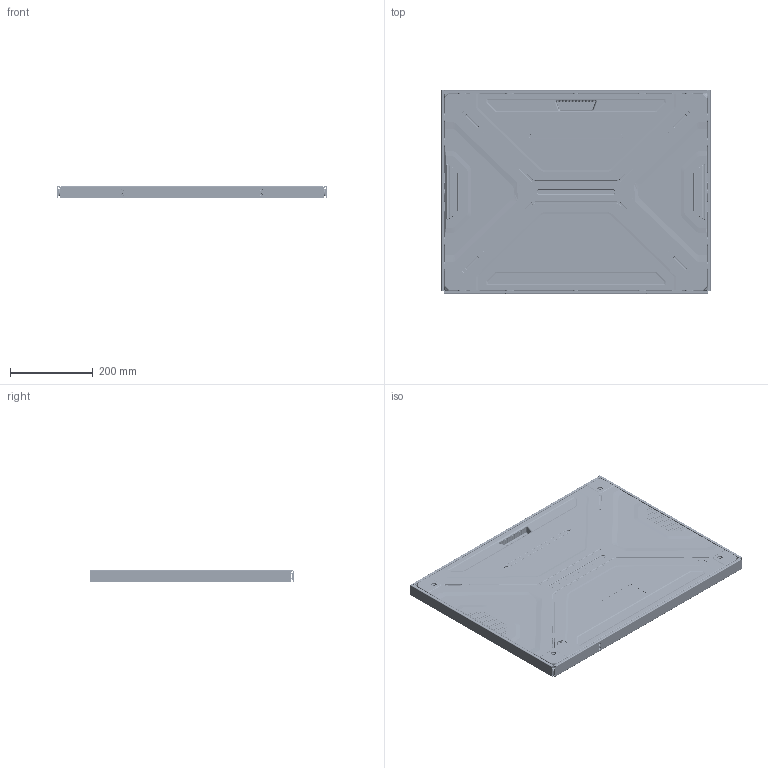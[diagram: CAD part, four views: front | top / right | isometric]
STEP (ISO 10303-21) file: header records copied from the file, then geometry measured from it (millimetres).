
FILE_DESCRIPTION((''),'2;1');
FILE_NAME('LDC-031_ASM','2024-08-07T15:59:43',('user'),(''),'CREO PARAMETRIC BY PTC INC, 2023073','CREO PARAMETRIC BY PTC INC, 2023073','');
FILE_SCHEMA(('CONFIG_CONTROL_DESIGN'));
Products named in the file (14): 00-M31PRO-CABINET_DRAFT_33; _07310100_33; 1--0731010001_ASM_33_ASM; H31_ASM_33_ASM; _H310001_30; M3X10_GB819_51; YP-H310001_ASM_30_ASM; YP-H310005_25; _CLIP-2_SS0001_32; YP-H310004_ASM_25_ASM; YP-H310006_25; YP-H31-0001_ASM_25_ASM; 0-0_H31_4X3_ASM_13_ASM; LDC-031_ASM
Assembly tree (25 placements, depth 5):
  LDC-031_ASM
    0-0_H31_4X3_ASM_13_ASM
      H31_ASM_33_ASM
        00-M31PRO-CABINET_DRAFT_33
        1--0731010001_ASM_33_ASM  x6
          _07310100_33
      YP-H310001_ASM_30_ASM
        _H310001_30
        M3X10_GB819_51  x4
      YP-H310004_ASM_25_ASM
        YP-H310005_25
        _CLIP-2_SS0001_32  x2
      YP-H31-0001_ASM_25_ASM
        YP-H310006_25
        _CLIP-2_SS0001_32  x2
    YP-H310001_ASM_30_ASM
      _H310001_30
      M3X10_GB819_51  x4
Bounding box: 651.98 x 491.98 x 31.5 mm (x, y, z)
Volume: 1811950.2 mm3; surface area: 1887977 mm2
Topology: 23 solids, 31 shells, 7229 faces, 19689 edges, 12808 vertices
Faces by surface type: plane 4149, cylinder 2186, bspline 522, torus 189, cone 179, sphere 4
Entity records: 225542 total; most frequent: CARTESIAN_POINT 67204, ORIENTED_EDGE 35138, DIRECTION 29890, EDGE_CURVE 17570, VERTEX_POINT 11411, VECTOR 11132, LINE 11132, AXIS2_PLACEMENT_3D 9379
